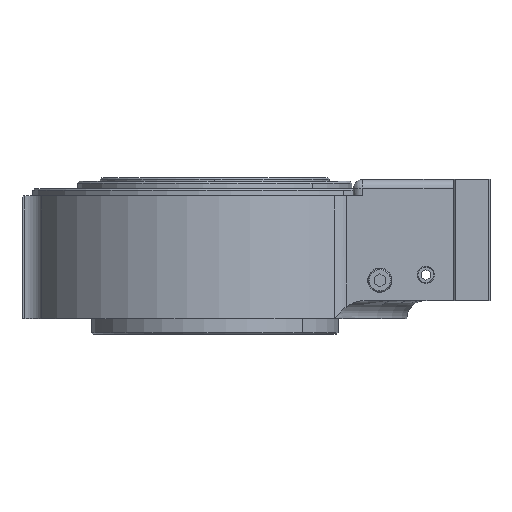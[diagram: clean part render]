
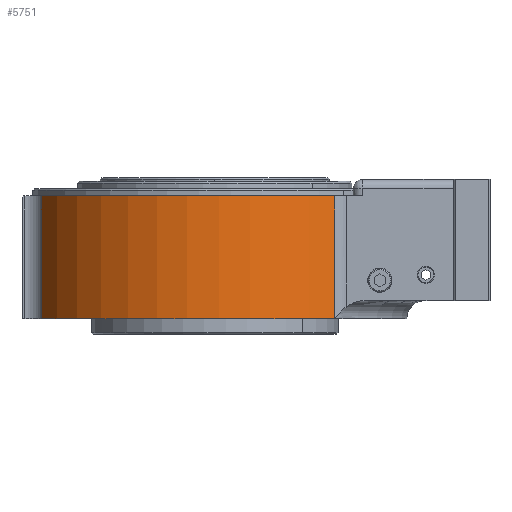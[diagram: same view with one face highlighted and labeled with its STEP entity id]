
A CAD part, left-side view. The second image highlights one B-rep face of the part: STEP entity #5751.
In plain terms, the highlighted cylindrical face has radius 105 mm (diameter 210 mm), a partial arc.
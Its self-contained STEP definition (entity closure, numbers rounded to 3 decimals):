
#89 = DIRECTION ( 'NONE',  ( 0., 0., 1. ) ) ;
#710 = CIRCLE ( 'NONE', #2191, 105. ) ;
#1353 = VERTEX_POINT ( 'NONE', #9308 ) ;
#1637 = AXIS2_PLACEMENT_3D ( 'NONE', #11455, #6951, #10649 ) ;
#2191 = AXIS2_PLACEMENT_3D ( 'NONE', #7005, #9656, #3578 ) ;
#2993 = LINE ( 'NONE', #10758, #6696 ) ;
#3260 = VERTEX_POINT ( 'NONE', #11060 ) ;
#3294 = ORIENTED_EDGE ( 'NONE', *, *, #5738, .T. ) ;
#3578 = DIRECTION ( 'NONE',  ( 1., 0., 0. ) ) ;
#3899 = ORIENTED_EDGE ( 'NONE', *, *, #11040, .F. ) ;
#4339 = CYLINDRICAL_SURFACE ( 'NONE', #1637, 105. ) ;
#4773 = EDGE_CURVE ( 'NONE', #9824, #8063, #9592, .T. ) ;
#5738 = EDGE_CURVE ( 'NONE', #9824, #1353, #710, .T. ) ;
#5751 = ADVANCED_FACE ( 'NONE', ( #10588 ), #4339, .T. ) ;
#5933 = ORIENTED_EDGE ( 'NONE', *, *, #7536, .T. ) ;
#6190 = VECTOR ( 'NONE', #89, 1000. ) ;
#6203 = DIRECTION ( 'NONE',  ( 1., 0., 0. ) ) ;
#6539 = EDGE_LOOP ( 'NONE', ( #3294, #5933, #3899, #10751 ) ) ;
#6597 = DIRECTION ( 'NONE',  ( 0., 0., 1. ) ) ;
#6696 = VECTOR ( 'NONE', #6597, 1000. ) ;
#6951 = DIRECTION ( 'NONE',  ( 0., 0., 1. ) ) ;
#7005 = CARTESIAN_POINT ( 'NONE',  ( 0., 0., 0. ) ) ;
#7536 = EDGE_CURVE ( 'NONE', #1353, #3260, #2993, .T. ) ;
#7594 = CARTESIAN_POINT ( 'NONE',  ( -45.652, 94.556, 0. ) ) ;
#7977 = CARTESIAN_POINT ( 'NONE',  ( -45.652, 94.556, 0. ) ) ;
#8063 = VERTEX_POINT ( 'NONE', #9291 ) ;
#8409 = AXIS2_PLACEMENT_3D ( 'NONE', #8686, #9785, #6203 ) ;
#8570 = CIRCLE ( 'NONE', #8409, 105. ) ;
#8686 = CARTESIAN_POINT ( 'NONE',  ( 0., 0., 67. ) ) ;
#9291 = CARTESIAN_POINT ( 'NONE',  ( -45.652, 94.556, 67. ) ) ;
#9308 = CARTESIAN_POINT ( 'NONE',  ( -82.174, -65.364, 0. ) ) ;
#9592 = LINE ( 'NONE', #7977, #6190 ) ;
#9656 = DIRECTION ( 'NONE',  ( 0., 0., 1. ) ) ;
#9785 = DIRECTION ( 'NONE',  ( 0., 0., 1. ) ) ;
#9824 = VERTEX_POINT ( 'NONE', #7594 ) ;
#10588 = FACE_OUTER_BOUND ( 'NONE', #6539, .T. ) ;
#10649 = DIRECTION ( 'NONE',  ( 1., 0., 0. ) ) ;
#10751 = ORIENTED_EDGE ( 'NONE', *, *, #4773, .F. ) ;
#10758 = CARTESIAN_POINT ( 'NONE',  ( -82.174, -65.364, 0. ) ) ;
#11040 = EDGE_CURVE ( 'NONE', #8063, #3260, #8570, .T. ) ;
#11060 = CARTESIAN_POINT ( 'NONE',  ( -82.174, -65.364, 67. ) ) ;
#11455 = CARTESIAN_POINT ( 'NONE',  ( 0., 0., 0. ) ) ;
